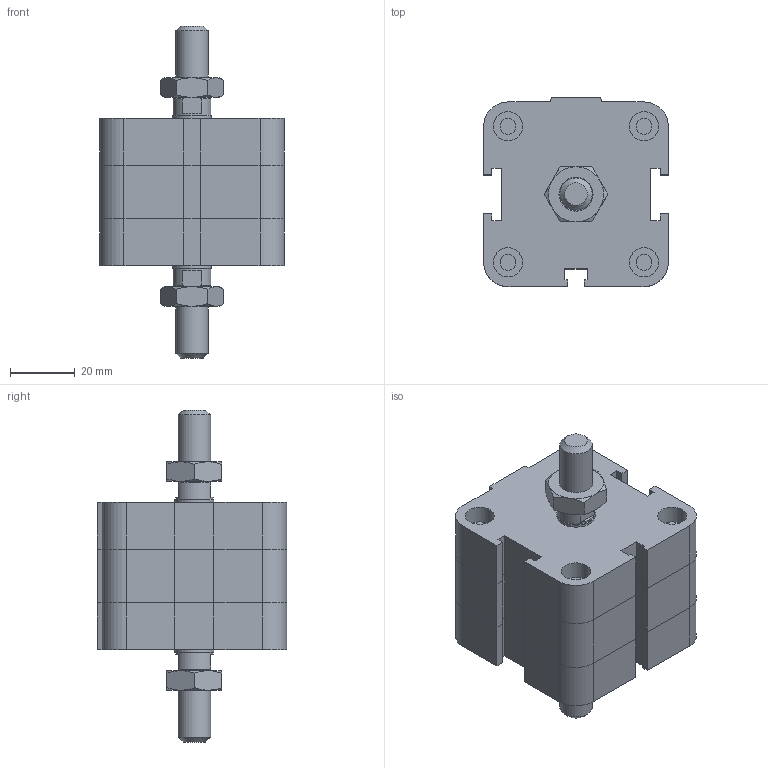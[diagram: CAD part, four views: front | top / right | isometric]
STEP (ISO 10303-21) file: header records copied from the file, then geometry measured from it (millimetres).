
FILE_DESCRIPTION((''),'2;1');
FILE_NAME('I:\Area Tecnica\Disegni\VARIE-3D\Componenti\EUROPE\15##_###_####_04_#\1581_40_0000_04_1.iam.stp','2009-04-20T14:51:21',(''),(''),'Autodesk Inventor 2009','Autodesk Inventor 2009','');
FILE_SCHEMA(('AUTOMOTIVE_DESIGN { 1 0 10303 214 1 1 1 1 }'));
Length unit declared in the file: millimetre
Products named in the file (4): 1581_40_0000_04_1; 1581_40_0000_03_1_C; 1561_40_0000_04_1_S; DBFM10
Assembly tree (4 placements, depth 2):
  1581_40_0000_04_1
    1581_40_0000_03_1_C
    1561_40_0000_04_1_S
    DBFM10  x2
Bounding box: 57 x 58.5 x 102.5 mm (x, y, z)
Volume: 139341.4 mm3; surface area: 28461.7 mm2
Topology: 4 solids, 4 shells, 222 faces, 483 edges, 289 vertices
Faces by surface type: plane 129, cone 35, bspline 33, cylinder 25
Full cylindrical faces by diameter (mm): 4.917 x4, 8.8 x1, 9 x4, 10 x1, 11.7 x2, 12 x1
Entity records: 5450 total; most frequent: CARTESIAN_POINT 1222, DIRECTION 802, ORIENTED_EDGE 772, EDGE_CURVE 386, AXIS2_PLACEMENT_3D 272, EDGE_LOOP 258, VECTOR 258, LINE 258
